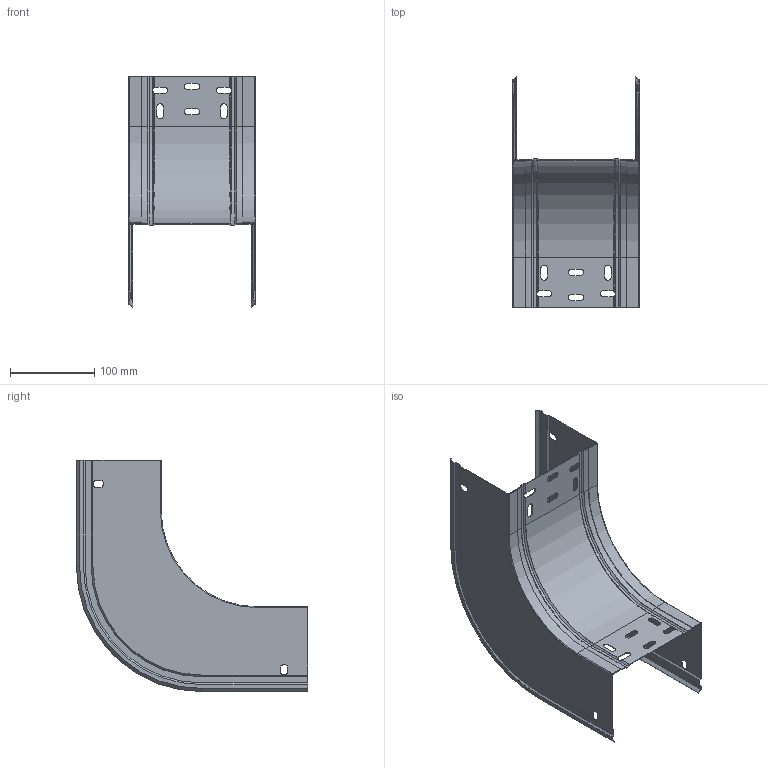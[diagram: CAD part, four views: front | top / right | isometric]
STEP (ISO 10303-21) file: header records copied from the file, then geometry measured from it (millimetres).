
FILE_DESCRIPTION (( 'STEP AP203' ), '1' );
FILE_NAME ('ERE_CONVEXA 150x100.step', '2023-07-27T18:49:31', ( '' ), ( '' ), 'SwSTEP 2.0', 'SolidWorks 2022', '' );
FILE_SCHEMA (( 'CONFIG_CONTROL_DESIGN' ));
Length unit declared in the file: millimetre
Products named in the file (3): ERE_CONVEXA 150x100; ERE_LATERAL CX_100; ERE_BASE CX_150
Assembly tree (3 placements, depth 2):
  ERE_CONVEXA 150x100
    ERE_BASE CX_150
    ERE_LATERAL CX_100  x2
Bounding box: 150 x 275.2 x 275.2 mm (x, y, z)
Volume: 113358.7 mm3; surface area: 286306.2 mm2
Topology: 3 solids, 3 shells, 232 faces, 632 edges, 394 vertices
Faces by surface type: plane 142, cylinder 64, cone 22, torus 4
Entity records: 5896 total; most frequent: CARTESIAN_POINT 1008, ORIENTED_EDGE 966, DIRECTION 957, EDGE_CURVE 483, LINE 343, VECTOR 343, AXIS2_PLACEMENT_3D 307, VERTEX_POINT 302
